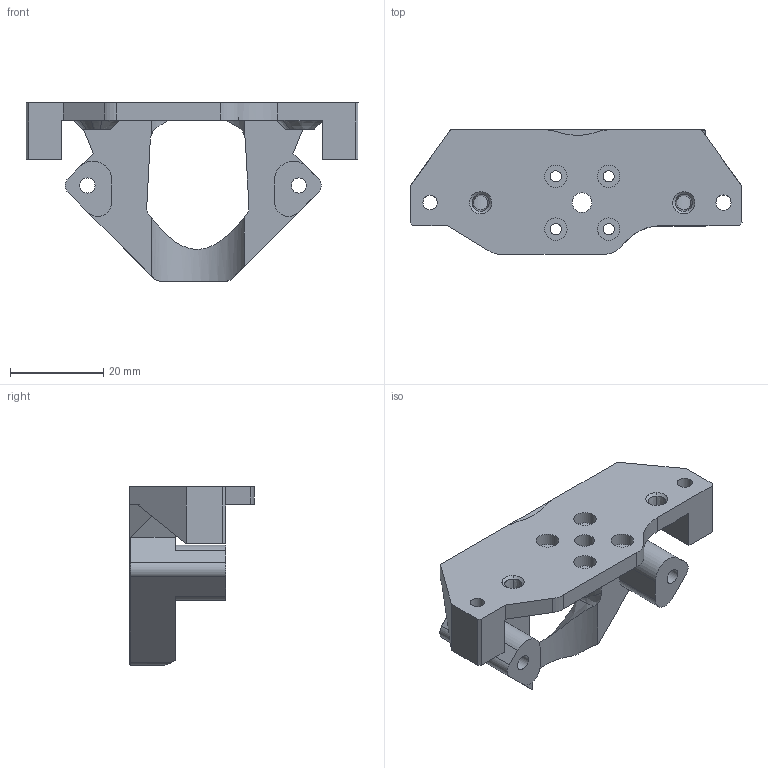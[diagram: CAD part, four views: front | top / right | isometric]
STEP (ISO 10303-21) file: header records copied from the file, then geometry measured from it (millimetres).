
FILE_DESCRIPTION(/* description */ (''),/* implementation_level */ '2;1');
FILE_NAME(/* name */ 'C:/Users/Martin/Documents/icarus-2.1/icarus-2-current-step-files/2-mounts/mount-sherpa-mini-r1-rapido-hf-2.2.step',/* time_stamp */ '2022-08-22T19:13:11+02:00',/* author */ (''),/* organization */ (''),/* preprocessor_version */ 'ST-DEVELOPER v19',/* originating_system */ 'Autodesk Translation Framework v11.7.0.108',/* authorisation */ '');
FILE_SCHEMA (('AUTOMOTIVE_DESIGN { 1 0 10303 214 3 1 1 }'));
Length unit declared in the file: millimetre
Products named in the file (1): mount-rapido
Bounding box: 71.07 x 26.66 x 38.18 mm (x, y, z)
Volume: 14039 mm3; surface area: 8856.8 mm2
Topology: 1 solids, 1 shells, 127 faces, 340 edges, 219 vertices
Faces by surface type: plane 48, bspline 43, cylinder 28, cone 8
Full cylindrical faces by diameter (mm): 2.4 x4, 3.1 x1, 3.25 x5, 4.2 x1, 4.8 x4
Entity records: 6544 total; most frequent: CARTESIAN_POINT 3554, ORIENTED_EDGE 682, DIRECTION 475, EDGE_CURVE 341, VERTEX_POINT 220, LINE 179, VECTOR 179, EDGE_LOOP 155
